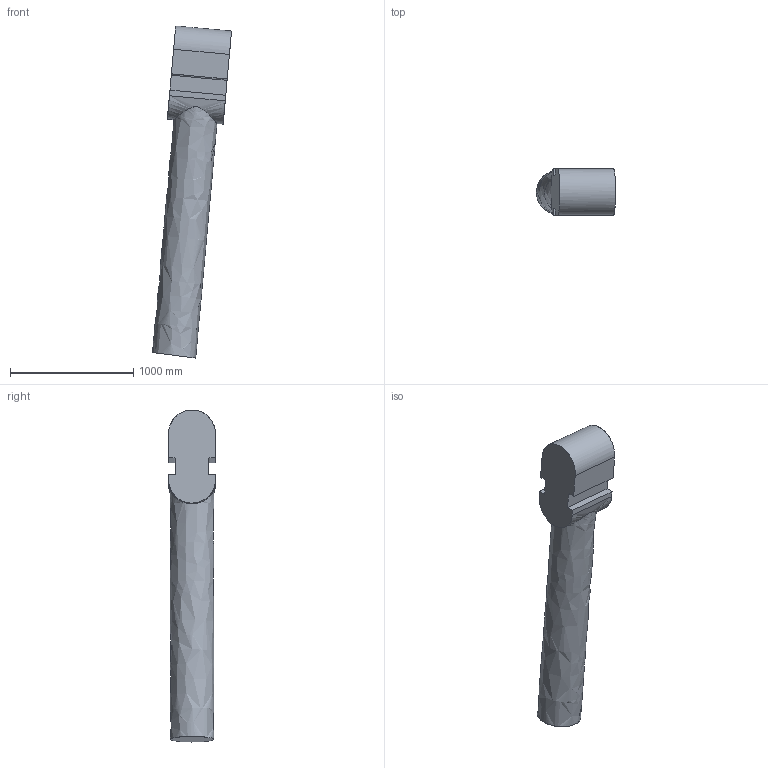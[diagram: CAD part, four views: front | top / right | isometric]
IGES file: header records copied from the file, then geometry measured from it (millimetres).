
Global section: file name: Z:\prj6.0\JFM_2018\outgoing\2022_scanned_data_JFM_0015_w_horn\2022 scans\model in tunnel at 5 deg mod\14x22_mast_in_tunnel_5deg_mod.igs; native system: NX V10.0; preprocessor: SIEMENS PLM Software NX 10.0; date: 20220822.141342; units: millimetre
Bounding box: 642.86 x 380.56 x 2698.42 mm (x, y, z)
Surface area: 3644913.1 mm2 (no closed solid volume)
Topology: 0 solids, 0 shells, 18 faces, 218 edges, 217 vertices
Faces by surface type: bspline 18
